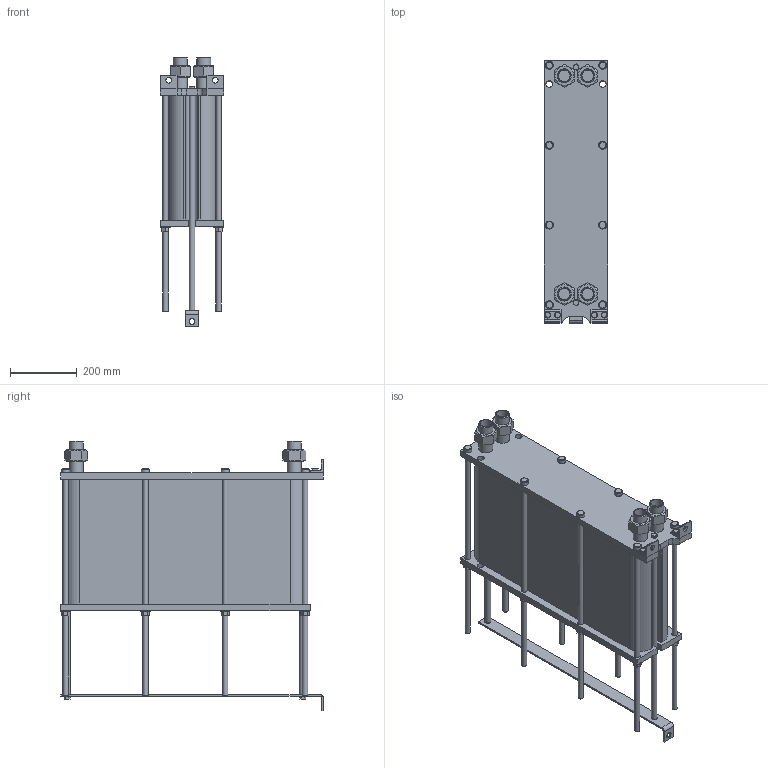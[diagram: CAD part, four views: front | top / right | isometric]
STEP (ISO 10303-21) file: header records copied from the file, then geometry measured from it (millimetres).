
FILE_DESCRIPTION(/* description */ (''),/* implementation_level */ '2;1');
FILE_NAME(/* name */ 'C:\Users\zhuro\Desktop\ENCO\TO\ЭН-008\ЭН-0,5-008-121-1.stp',/* time_stamp */ '2022-06-06T10:56:56+03:00',/* author */ ('zhuro'),/* organization */ (''),/* preprocessor_version */ 'ST-DEVELOPER v18.1',/* originating_system */ 'Autodesk Inventor 2022',/* authorisation */ '');
FILE_SCHEMA (('AUTOMOTIVE_DESIGN { 1 0 10303 214 3 1 1 }'));
Length unit declared in the file: millimetre
Products named in the file (1): ЭН-0,5-008-121-1
Bounding box: 190 x 790 x 809.8 mm (x, y, z)
Volume: 45295676.7 mm3; surface area: 2199160.2 mm2
Topology: 40 solids, 40 shells, 428 faces, 924 edges, 606 vertices
Faces by surface type: plane 273, cylinder 109, cone 40, torus 6
Full cylindrical faces by diameter (mm): 12 x6, 14 x2, 16 x20, 17 x8, 18 x19, 20 x5, 24 x8, 28 x8, 34.3 x8, 42.3 x8
Entity records: 15843 total; most frequent: CARTESIAN_POINT 5991, DIRECTION 1984, ORIENTED_EDGE 1848, EDGE_CURVE 924, AXIS2_PLACEMENT_3D 715, VERTEX_POINT 606, LINE 554, VECTOR 554
